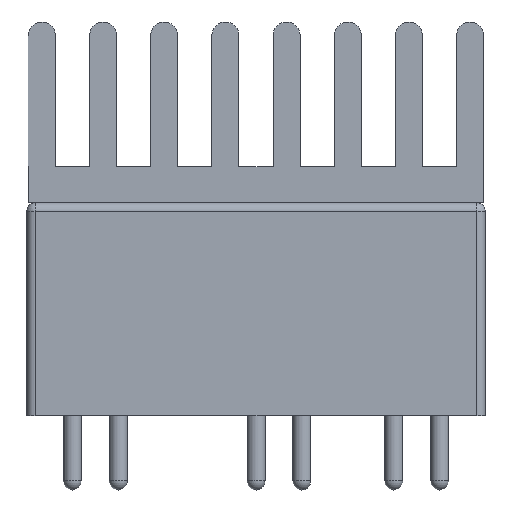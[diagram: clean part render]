
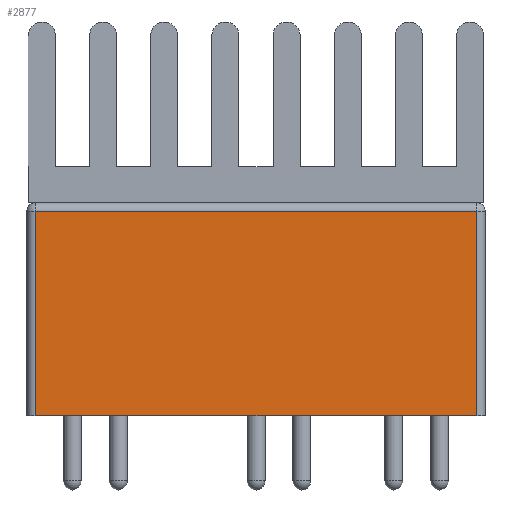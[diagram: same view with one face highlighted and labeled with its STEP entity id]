
A CAD part, left-side view. The second image highlights one B-rep face of the part: STEP entity #2877.
In plain terms, the highlighted planar face has unit normal (-1, 0, 0).
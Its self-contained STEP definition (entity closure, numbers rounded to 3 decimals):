
#45=LINE('',#11707,#993);
#46=LINE('',#11710,#994);
#47=LINE('',#11712,#995);
#48=LINE('',#11714,#996);
#993=VECTOR('',#9363,1.);
#994=VECTOR('',#9364,1.);
#995=VECTOR('',#9365,1.);
#996=VECTOR('',#9366,1.);
#2027=PLANE('',#8624);
#2400=FACE_OUTER_BOUND('',#3562,.T.);
#2877=ADVANCED_FACE('',(#2400),#2027,.T.);
#3562=EDGE_LOOP('',(#4126,#4127,#4128,#4129));
#4126=ORIENTED_EDGE('',*,*,#7228,.T.);
#4127=ORIENTED_EDGE('',*,*,#7229,.T.);
#4128=ORIENTED_EDGE('',*,*,#7230,.T.);
#4129=ORIENTED_EDGE('',*,*,#7231,.T.);
#6456=VERTEX_POINT('',#11708);
#6457=VERTEX_POINT('',#11709);
#6458=VERTEX_POINT('',#11711);
#6459=VERTEX_POINT('',#11713);
#7228=EDGE_CURVE('',#6456,#6457,#45,.T.);
#7229=EDGE_CURVE('',#6457,#6458,#46,.T.);
#7230=EDGE_CURVE('',#6458,#6459,#47,.T.);
#7231=EDGE_CURVE('',#6459,#6456,#48,.T.);
#8624=AXIS2_PLACEMENT_3D('',#11715,#9367,#9368);
#9363=DIRECTION('',(0.,1.,0.));
#9364=DIRECTION('',(0.,0.,-1.));
#9365=DIRECTION('',(0.,-1.,0.));
#9366=DIRECTION('',(0.,0.,1.));
#9367=DIRECTION('',(-1.,0.,0.));
#9368=DIRECTION('',(0.,-1.,0.));
#11707=CARTESIAN_POINT('',(-25.4,12.7,11.3));
#11708=CARTESIAN_POINT('',(-25.4,-12.2,11.3));
#11709=CARTESIAN_POINT('',(-25.4,12.2,11.3));
#11710=CARTESIAN_POINT('',(-25.4,12.2,0.));
#11711=CARTESIAN_POINT('',(-25.4,12.2,0.));
#11712=CARTESIAN_POINT('',(-25.4,12.7,0.));
#11713=CARTESIAN_POINT('',(-25.4,-12.2,0.));
#11714=CARTESIAN_POINT('',(-25.4,-12.2,0.));
#11715=CARTESIAN_POINT('',(-25.4,12.7,0.));
